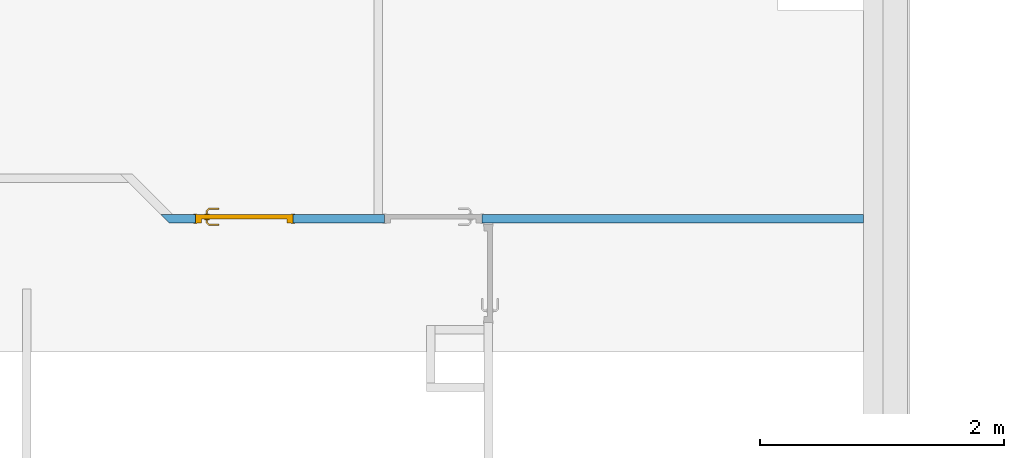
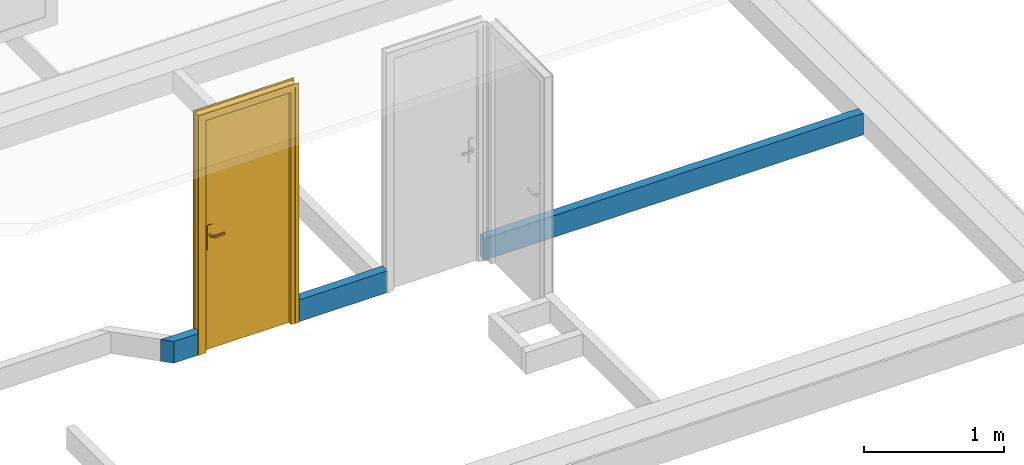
# One storey, part 2 of 5: 1 door, 1 wall, 2 openings.
"""IFC2X3 building model written with IfcOpenShell, lengths in centimetres."""

import ifcopenshell
import ifcopenshell.guid

model = None  # the IFC model being written
_history = None  # IfcOwnerHistory: only IFC2X3 demands one
_inside = {}  # id of a spatial element -> (the spatial element, [elements in it])
_under = {}  # id of a project, library or spatial element -> (it, [spatial elements below it])
_declared = {}  # id of a project -> (the project, [libraries it declares])
_typed = {}  # id of a type object -> (the type object, [elements of that type])
_made_of = {}  # id of a material, layer set ... -> (it, [elements and type objects made of it])


def new_model(schema):
    """Start an empty IFC model of exactly this schema.

    Asked for "IFC4X3", IfcOpenShell would pick the latest addendum, in which some entities
    have other attributes; the version numbers below select the first issue.
    IFC2X3 requires an IfcOwnerHistory on every rooted entity: one is made here for all.
    """
    global model, _history
    if schema == "IFC4X3":
        model = ifcopenshell.file(schema_version=(4, 3, 0, 0))
    else:
        model = ifcopenshell.file(schema=schema)
    _inside.clear()
    _under.clear()
    _declared.clear()
    _typed.clear()
    _made_of.clear()
    _history = None
    if model.schema == "IFC2X3":
        org = make("IfcOrganization", Name="unknown")
        user = make(
            "IfcPersonAndOrganization",
            ThePerson=make("IfcPerson", FamilyName="unknown"),
            TheOrganization=org,
        )
        app = make(
            "IfcApplication",
            ApplicationDeveloper=org,
            Version="unknown",
            ApplicationFullName="unknown",
            ApplicationIdentifier="unknown",
        )
        _history = make(
            "IfcOwnerHistory",
            OwningUser=user,
            OwningApplication=app,
            ChangeAction="ADDED",
            CreationDate=0,
        )
    return model


def make(cls, **values):
    """One entity of the class cls with the attributes given. An attribute that is None is left unset."""
    return model.create_entity(
        cls, **{name: value for name, value in values.items() if value is not None}
    )


def entity(cls, *values):
    """Any entity or typed value of the class cls, its attributes in the order of the schema. None: left unset."""
    e = model.create_entity(cls)
    for i, value in enumerate(values):
        if value is not None:
            e[i] = value
    return e


def rooted(cls, **values):
    """An entity with a GlobalId (a new one), such as an element, a storey or a relation."""
    return make(cls, GlobalId=ifcopenshell.guid.new(), OwnerHistory=_history, **values)


def si_unit(unit_type, name, prefix=None):
    """IfcSIUnit, for example si_unit("LENGTHUNIT", "METRE", prefix="MILLI")."""
    return make("IfcSIUnit", UnitType=unit_type, Prefix=prefix, Name=name)


def converted_unit(unit_type, name, factor, base, dimensions=None, offset=None):
    """IfcConversionBasedUnit, such as the inch: factor (a typed value) times the base unit."""
    return make(
        "IfcConversionBasedUnit"
        if offset is None
        else "IfcConversionBasedUnitWithOffset",
        ConversionOffset=offset,
        Dimensions=None
        if dimensions is None
        else entity("IfcDimensionalExponents", *dimensions),
        UnitType=unit_type,
        Name=name,
        ConversionFactor=make(
            "IfcMeasureWithUnit", ValueComponent=factor, UnitComponent=base
        ),
    )


def derived_unit(unit_type, elements):
    """IfcDerivedUnit: a product of units, each with its exponent."""
    return make(
        "IfcDerivedUnit",
        Elements=[
            make("IfcDerivedUnitElement", Unit=unit, Exponent=power)
            for unit, power in elements
        ],
        UnitType=unit_type,
    )


def assignment(units):
    """IfcUnitAssignment: the units of a project."""
    return None if units is None else make("IfcUnitAssignment", Units=units)


def point(xyz):
    """IfcCartesianPoint."""
    return None if xyz is None else make("IfcCartesianPoint", Coordinates=xyz)


def direction(xyz):
    """IfcDirection."""
    return None if xyz is None else make("IfcDirection", DirectionRatios=xyz)


def frame(location, z_axis=None, x_axis=None):
    """IfcAxis2Placement3D, a coordinate frame: its origin and axes. An axis left out is left unset."""
    return make(
        "IfcAxis2Placement3D",
        Location=point(location),
        Axis=direction(z_axis),
        RefDirection=direction(x_axis),
    )


def frame_2d(location, x_axis=None):
    """IfcAxis2Placement2D, a coordinate frame in the plane: its origin and x axis."""
    return make(
        "IfcAxis2Placement2D", Location=point(location), RefDirection=direction(x_axis)
    )


def origin():
    """The frame at (0, 0, 0) with its axes left unset."""
    return frame((0.0, 0.0, 0.0))


def place(relative_to, where):
    """IfcLocalPlacement: puts the frame where relative to a parent placement (None: the world)."""
    return make(
        "IfcLocalPlacement", PlacementRelTo=relative_to, RelativePlacement=where
    )


def context(
    kind, dimensions, precision=None, world=None, true_north=None, identifier=None
):
    """IfcGeometricRepresentationContext, for example the 3D "Model" context."""
    return make(
        "IfcGeometricRepresentationContext",
        ContextIdentifier=identifier,
        ContextType=kind,
        CoordinateSpaceDimension=dimensions,
        Precision=precision,
        WorldCoordinateSystem=world,
        TrueNorth=true_north,
    )


def subcontext(parent, identifier, kind, view, scale=None):
    """IfcGeometricRepresentationSubContext, for example "Body" below "Model"."""
    return make(
        "IfcGeometricRepresentationSubContext",
        ContextIdentifier=identifier,
        ContextType=kind,
        ParentContext=parent,
        TargetScale=scale,
        TargetView=view,
    )


def project(units=None, contexts=None):
    """IfcProject with its units and contexts."""
    return rooted(
        "IfcProject",
        Name="project",
        RepresentationContexts=contexts,
        UnitsInContext=assignment(units),
    )


def spatial(cls, under=None, at=None, **own):
    """A site, building, storey or space (cls), placed at a placement, below another one or the project."""
    s = rooted(cls, ObjectPlacement=at, **own)
    if under is not None:
        _under.setdefault(under.id(), (under, []))[1].append(s)
    return s


def polyline(points):
    """IfcPolyline through the points."""
    return make("IfcPolyline", Points=[point(p) for p in points])


def profile(cls, at=None, kind="AREA", **sizes):
    """A parametric profile (cls). Its sizes go by their IFC names, for example OverallWidth=200.0."""
    return make(cls, ProfileType=kind, Position=at, **sizes)


def rectangle(**sizes):
    """IfcRectangleProfileDef."""
    return profile("IfcRectangleProfileDef", **sizes)


def outline(outer, holes=None, kind="AREA"):
    """IfcArbitraryClosedProfileDef: a profile drawn as a closed curve; with holes, ...WithVoids."""
    if holes is None:
        return make("IfcArbitraryClosedProfileDef", ProfileType=kind, OuterCurve=outer)
    return make(
        "IfcArbitraryProfileDefWithVoids",
        ProfileType=kind,
        OuterCurve=outer,
        InnerCurves=holes,
    )


def extrude(swept, where, along, depth):
    """IfcExtrudedAreaSolid: the profile swept, set in the frame where, extruded along a direction by depth."""
    return make(
        "IfcExtrudedAreaSolid",
        SweptArea=swept,
        Position=where,
        ExtrudedDirection=direction(along),
        Depth=depth,
    )


def clip(a, b, op="DIFFERENCE"):
    """IfcBooleanClippingResult: the solid a cut by the half space b."""
    return make(
        "IfcBooleanClippingResult", Operator=op, FirstOperand=a, SecondOperand=b
    )


def halfspace(plane, agree):
    """IfcHalfSpaceSolid: all space on one side of the plane z = 0 of the frame plane."""
    return make(
        "IfcHalfSpaceSolid",
        BaseSurface=make("IfcPlane", Position=plane),
        AgreementFlag=agree,
    )


def faces_of(points, faces, orient=None, outer=None):
    """IfcFace entities. A face is a list of loops; a loop is a list of indices into points, from 0.

    orient and outer hold one flag for each loop. By default every Orientation is true, the
    first loop of a face is its IfcFaceOuterBound and the others are IfcFaceBound.
    """
    made = []
    for i, loops in enumerate(faces):
        bounds = []
        for j, loop in enumerate(loops):
            is_outer = j == 0 if outer is None else outer[i][j]
            bounds.append(
                make(
                    "IfcFaceOuterBound" if is_outer else "IfcFaceBound",
                    Bound=make("IfcPolyLoop", Polygon=[points[k] for k in loop]),
                    Orientation=True if orient is None else orient[i][j],
                )
            )
        made.append(make("IfcFace", Bounds=bounds))
    return made


def faceted_brep(points, faces, orient=None, outer=None, voids=None):
    """IfcFacetedBrep: a solid bounded by flat faces; with voids (closed shells), ...WithVoids."""
    shared = [point(p) for p in points]
    hull = make("IfcClosedShell", CfsFaces=faces_of(shared, faces, orient, outer))
    if voids is None:
        return make("IfcFacetedBrep", Outer=hull)
    return make(
        "IfcFacetedBrepWithVoids",
        Outer=hull,
        Voids=[
            make(cls, CfsFaces=faces_of(shared, fs, o, b)) for cls, fs, o, b in voids
        ],
    )


def shape(context_of_items, identifier, shape_type, items):
    """IfcShapeRepresentation: the items that make up one representation, for example the "Body"."""
    return make(
        "IfcShapeRepresentation",
        ContextOfItems=context_of_items,
        RepresentationIdentifier=identifier,
        RepresentationType=shape_type,
        Items=items,
    )


def source(mapping_origin, context_of_items, identifier, shape_type, items):
    """IfcRepresentationMap: a shape defined once, which mapped items show again and again."""
    return make(
        "IfcRepresentationMap",
        MappingOrigin=mapping_origin,
        MappedRepresentation=shape(context_of_items, identifier, shape_type, items),
    )


def transform(
    local_origin,
    x_axis=None,
    y_axis=None,
    z_axis=None,
    scale=None,
    scale2=None,
    scale3=None,
    uniform=True,
):
    """IfcCartesianTransformationOperator3D, or its non-uniform kind. x_axis, y_axis, z_axis: its Axis1, 2, 3."""
    if uniform:
        return make(
            "IfcCartesianTransformationOperator3D",
            Axis1=direction(x_axis),
            Axis2=direction(y_axis),
            LocalOrigin=point(local_origin),
            Scale=scale,
            Axis3=direction(z_axis),
        )
    return make(
        "IfcCartesianTransformationOperator3DnonUniform",
        Axis1=direction(x_axis),
        Axis2=direction(y_axis),
        LocalOrigin=point(local_origin),
        Scale=scale,
        Axis3=direction(z_axis),
        Scale2=scale2,
        Scale3=scale3,
    )


def mapped(mapping_source, mapping_target):
    """IfcMappedItem: shows the shape of a source again, moved by a transform."""
    return make(
        "IfcMappedItem", MappingSource=mapping_source, MappingTarget=mapping_target
    )


def material(Name=None, Category=None):
    """IfcMaterial."""
    return make("IfcMaterial", Name=Name, Category=Category)


def material_list(materials):
    """IfcMaterialList."""
    return make("IfcMaterialList", Materials=materials)


def layer(
    of_material, thickness, ventilated=None, Name=None, Category=None, Priority=None
):
    """IfcMaterialLayer: one layer of a wall or slab, of a material (None: an air gap)."""
    return make(
        "IfcMaterialLayer",
        Material=of_material,
        LayerThickness=thickness,
        IsVentilated=ventilated,
        Name=Name,
        Category=Category,
        Priority=Priority,
    )


def layer_set(layers, Name=None):
    """IfcMaterialLayerSet."""
    return make("IfcMaterialLayerSet", MaterialLayers=layers, LayerSetName=Name)


def layer_usage(for_layer_set, set_direction, sense, offset, extent=None):
    """IfcMaterialLayerSetUsage: how a layer set lies in its element."""
    return make(
        "IfcMaterialLayerSetUsage",
        ForLayerSet=for_layer_set,
        LayerSetDirection=set_direction,
        DirectionSense=sense,
        OffsetFromReferenceLine=offset,
        ReferenceExtent=extent,
    )


def made_of(thing, what):
    """Note that an element or type object is made of a material, layer set ...; save() writes the relation."""
    if what is not None:
        _made_of.setdefault(what.id(), (what, []))[1].append(thing)
    return thing


def type_object(cls, material=None, **own):
    """A type object (cls), such as IfcWallType, which elements share."""
    return made_of(rooted(cls, **own), material)


def type_shapes(of_type, sources):
    """Give a type object the sources (RepresentationMaps) that its elements show as mapped items."""
    of_type.RepresentationMaps = sources


def element(
    cls,
    number,
    at=None,
    inside=None,
    cuts=None,
    type_object=None,
    material=None,
    context=None,
    identifier="Body",
    shape_type=None,
    held_by="IfcProductDefinitionShape",
    body=None,
    shapes=None,
    **own,
):
    """One element of the class cls, such as IfcWall. Its Tag is "e" and its number.

    at: its placement. inside: the storey or other place that contains it. cuts: it is an
    opening in that element (IfcRelVoidsElement). A single representation is given by context,
    identifier, shape_type and body (its items); several are given by shapes. held_by: the class
    of the entity that holds the representations. save() writes the other relations.
    """
    e = rooted(cls, Tag="e%d" % number, ObjectPlacement=at, **own)
    if body is not None:
        shapes = [shape(context, identifier, shape_type, body)]
    if shapes is not None:
        e.Representation = make(held_by, Representations=shapes)
    if inside is not None:
        _inside.setdefault(inside.id(), (inside, []))[1].append(e)
    if cuts is not None:
        rooted(
            "IfcRelVoidsElement", RelatingBuildingElement=cuts, RelatedOpeningElement=e
        )
    if type_object is not None:
        _typed.setdefault(type_object.id(), (type_object, []))[1].append(e)
    return made_of(e, material)


def fill(opening, filler):
    """IfcRelFillsElement: the door or window that sits in an opening."""
    return rooted(
        "IfcRelFillsElement",
        RelatingOpeningElement=opening,
        RelatedBuildingElement=filler,
    )


def aggregate(whole, parts):
    """IfcRelAggregates: a whole, such as a stair, and the parts it consists of."""
    return rooted("IfcRelAggregates", RelatingObject=whole, RelatedObjects=parts)


def save(model, path):
    """Write the relations noted so far, then the file.

    IfcRelAggregates (storeys below a building ...), IfcRelContainedInSpatialStructure (elements
    in a storey), IfcRelDefinesByType, IfcRelAssociatesMaterial and IfcRelDeclares: one each for
    every whole, place, type object, material and project.
    """
    for whole, parts in _under.values():
        aggregate(whole, parts)
    for where, things in _inside.values():
        rooted(
            "IfcRelContainedInSpatialStructure",
            RelatedElements=things,
            RelatingStructure=where,
        )
    for kind, things in _typed.values():
        rooted("IfcRelDefinesByType", RelatedObjects=things, RelatingType=kind)
    for what, things in _made_of.values():
        rooted("IfcRelAssociatesMaterial", RelatedObjects=things, RelatingMaterial=what)
    for by, libraries in _declared.values():
        rooted("IfcRelDeclares", RelatingContext=by, RelatedDefinitions=libraries)
    model.write(path)


model = new_model("IFC2X3")

# Units and contexts
model_context = context("Model", 3, precision=0.001, world=origin(), true_north=direction((6.12303176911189e-17, 1.0)))
body_context = subcontext(model_context, "Body", "Model", "MODEL_VIEW")
ifc_project = project(units=[si_unit("LENGTHUNIT", "METRE", prefix="CENTI"), si_unit("AREAUNIT", "SQUARE_METRE"), si_unit("VOLUMEUNIT", "CUBIC_METRE"), converted_unit("PLANEANGLEUNIT", "DEGREE", entity("IfcRatioMeasure", 0.0174532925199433), si_unit("PLANEANGLEUNIT", "RADIAN"), dimensions=[0, 0, 0, 0, 0, 0, 0]), si_unit("MASSUNIT", "GRAM", prefix="KILO"), derived_unit("MASSDENSITYUNIT", [(si_unit("MASSUNIT", "GRAM", prefix="KILO"), 1), (si_unit("LENGTHUNIT", "METRE"), -3)]), derived_unit("MOMENTOFINERTIAUNIT", [(si_unit("LENGTHUNIT", "METRE"), 4)]), si_unit("TIMEUNIT", "SECOND"), si_unit("FREQUENCYUNIT", "HERTZ"), si_unit("THERMODYNAMICTEMPERATUREUNIT", "DEGREE_CELSIUS"), derived_unit("THERMALTRANSMITTANCEUNIT", [(si_unit("MASSUNIT", "GRAM", prefix="KILO"), 1), (si_unit("THERMODYNAMICTEMPERATUREUNIT", "KELVIN"), -1), (si_unit("TIMEUNIT", "SECOND"), -3)]), derived_unit("VOLUMETRICFLOWRATEUNIT", [(si_unit("LENGTHUNIT", "METRE"), 3), (si_unit("TIMEUNIT", "SECOND"), -1)]), si_unit("ELECTRICCURRENTUNIT", "AMPERE"), si_unit("ELECTRICVOLTAGEUNIT", "VOLT"), si_unit("POWERUNIT", "WATT"), si_unit("FORCEUNIT", "NEWTON", prefix="KILO"), si_unit("ILLUMINANCEUNIT", "LUX"), si_unit("LUMINOUSFLUXUNIT", "LUMEN"), si_unit("LUMINOUSINTENSITYUNIT", "CANDELA"), derived_unit("USERDEFINED", [(si_unit("MASSUNIT", "GRAM", prefix="KILO"), -1), (si_unit("LENGTHUNIT", "METRE"), -2), (si_unit("TIMEUNIT", "SECOND"), 3), (si_unit("LUMINOUSFLUXUNIT", "LUMEN"), 1)]), derived_unit("LINEARVELOCITYUNIT", [(si_unit("LENGTHUNIT", "METRE"), 1), (si_unit("TIMEUNIT", "SECOND"), -1)]), si_unit("PRESSUREUNIT", "PASCAL"), derived_unit("USERDEFINED", [(si_unit("LENGTHUNIT", "METRE"), -2), (si_unit("MASSUNIT", "GRAM", prefix="KILO"), 1), (si_unit("TIMEUNIT", "SECOND"), -2)]), derived_unit("LINEARFORCEUNIT", [(si_unit("MASSUNIT", "GRAM", prefix="KILO"), 1), (si_unit("LENGTHUNIT", "METRE"), 1), (si_unit("TIMEUNIT", "SECOND"), -2), (si_unit("LENGTHUNIT", "METRE"), -1)]), derived_unit("PLANARFORCEUNIT", [(si_unit("MASSUNIT", "GRAM", prefix="KILO"), 1), (si_unit("LENGTHUNIT", "METRE"), 1), (si_unit("TIMEUNIT", "SECOND"), -2), (si_unit("LENGTHUNIT", "METRE"), -2)])], contexts=[model_context])

# Site, building, storey
site_placement = place(None, origin())
site = spatial("IfcSite", under=ifc_project, at=site_placement, Name="Surface", CompositionType="ELEMENT")
building_placement = place(site_placement, origin())
building = spatial("IfcBuilding", under=site, at=building_placement, CompositionType="ELEMENT")
storey_placement = place(building_placement, frame((0.0, 0.0, 263.0)))
storey = spatial("IfcBuildingStorey", under=building, at=storey_placement, Name="2.63_Etage", CompositionType="ELEMENT", Elevation=263.0)

# Wall, openings, door
ifc_material_1 = material(Name="Mur par défaut")
ifc_layer = layer(ifc_material_1, 7.0)
ifc_layer_set = layer_set([ifc_layer], Name="Mur de base:Cloison 7cm")
ifc_layer_usage = layer_usage(ifc_layer_set, "AXIS2", "POSITIVE", -3.5)
wall_type = type_object("IfcWallType", Name="Mur de base:Cloison 7cm", PredefinedType="STANDARD", material=ifc_layer_set)
wall_placement = place(storey_placement, frame((-918.177260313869, 397.49231712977, 0.0), z_axis=(0.0, 0.0, 1.0), x_axis=(-1.0, 0.0, 0.0)))
wall = element("IfcWallStandardCase", 1, at=wall_placement, inside=storey, type_object=wall_type, material=ifc_layer_usage, Name="Mur de base:Cloison 7cm", ObjectType="Mur de base:Cloison 7cm", context=body_context, shape_type="Clipping", body=[
    clip(extrude(outline(polyline([(0.0, -3.49999999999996), (394.0, -3.49999999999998), (401.0, -3.49999999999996), (566.100505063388, -3.49999999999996), (576.0, -3.49999999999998), (569.0, 3.50000000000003), (0.0, 3.50000000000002), (0.0, -3.49999999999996)])), origin(), (0.0, 0.0, 1.0), 19.0), halfspace(origin(), True)),
])
opening_1_placement = place(wall_placement, frame((547.5, 3.49999999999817, 0.0)))
opening_1 = element("IfcOpeningElement", 2, at=opening_1_placement, cuts=wall, Name="Int. Simple:PP (0.73m x 2.04m):1", ObjectType="Opening", context=body_context, shape_type="SweptSolid", body=[
    extrude(rectangle(XDim=207.5, YDim=79.9999999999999, at=frame_2d((103.75, 40.0), x_axis=(1.0, 0.0))), frame((0.0, 0.0, 0.0), z_axis=(0.0, -1.0, 0.0), x_axis=(0.0, 0.0, 1.0)), (0.0, 0.0, 1.0), 7.0),
])
opening_2_placement = place(wall_placement, frame((392.500000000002, 3.49999999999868, 0.0)))
element("IfcOpeningElement", 3, at=opening_2_placement, cuts=wall, Name="Int. Simple:PP (0.73m x 2.04m):1", ObjectType="Opening", context=body_context, shape_type="SweptSolid", body=[
    extrude(rectangle(XDim=207.5, YDim=79.9999999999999, at=frame_2d((103.75, 40.0), x_axis=(1.0, 0.0))), frame((0.0, 0.0, 0.0), z_axis=(0.0, -1.0, 0.0), x_axis=(0.0, 0.0, 1.0)), (0.0, 0.0, 1.0), 7.0),
])
ifc_material_2 = material(Name="Finition Peinture - Blanc satiné")
ifc_material_3 = material(Name="Bois - Panneau de porte")
ifc_material_4 = material(Name="Bois - Cadre de porte")
ifc_material_list_1 = material_list([ifc_material_2, ifc_material_3, ifc_material_4])
ifc_material_list_2 = material_list([ifc_material_2, ifc_material_4, ifc_material_3])
door_style = type_object("IfcDoorStyle", Name="Int. Simple:PP (0.73m x 2.04m)", ConstructionType="NOTDEFINED", OperationType="NOTDEFINED", ParameterTakesPrecedence=False, Sizeable=False, material=ifc_material_list_2)
shared_shape = source(origin(), body_context, "Body", "Brep", [
    faceted_brep([(79.5000000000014, -0.500000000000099, 87.0), (79.5000000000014, -0.500000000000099, 108.0), (78.5352761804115, -0.500000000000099, 108.399601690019), (77.5000000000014, -0.500000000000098, 108.535898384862), (76.4647238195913, -0.500000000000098, 108.399601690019), (75.5000000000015, -0.500000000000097, 108.0), (75.5000000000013, -0.500000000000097, 87.0), (76.4647238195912, -0.500000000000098, 86.6003983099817), (77.5000000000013, -0.500000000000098, 86.464101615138), (78.5352761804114, -0.500000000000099, 86.6003983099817), (79.5000000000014, 0.0, 108.0), (79.5000000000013, 0.0, 87.0), (78.5352761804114, 0.0, 86.6003983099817), (77.5000000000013, 0.0, 86.464101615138), (76.4647238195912, 0.0, 86.6003983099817), (75.5000000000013, 0.0, 87.0), (75.5000000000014, 0.0, 108.0), (76.4647238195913, 0.0, 108.399601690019), (77.5000000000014, 0.0, 108.535898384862), (78.5352761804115, 0.0, 108.399601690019)], [[[0, 1, 2, 3, 4, 5, 6, 7, 8, 9]], [[10, 11, 12, 13, 14, 15, 16, 17, 18, 19]], [[9, 12, 11, 0]], [[8, 13, 12, 9]], [[7, 14, 13, 8]], [[7, 6, 15, 14]], [[15, 6, 5, 16]], [[4, 17, 16, 5]], [[3, 18, 17, 4]], [[2, 19, 18, 3]], [[2, 1, 10, 19]], [[11, 10, 1, 0]]]),
    faceted_brep([(79.5000000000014, 4.0, 87.0), (79.5000000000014, 4.0, 108.0), (78.5352761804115, 4.0, 108.399601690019), (77.5000000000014, 4.0, 108.535898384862), (76.4647238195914, 4.0, 108.399601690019), (75.5000000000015, 4.0, 108.0), (75.5000000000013, 4.0, 87.0), (76.4647238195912, 4.0, 86.6003983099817), (77.5000000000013, 4.0, 86.464101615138), (78.5352761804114, 4.0, 86.6003983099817), (77.5000000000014, 4.4999999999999, 108.535898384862), (78.5352761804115, 4.4999999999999, 108.399601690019), (79.5000000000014, 4.4999999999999, 108.0), (79.5000000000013, 4.4999999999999, 87.0), (78.5352761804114, 4.4999999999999, 86.6003983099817), (77.5000000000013, 4.4999999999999, 86.464101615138), (76.4647238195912, 4.4999999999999, 86.6003983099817), (75.5000000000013, 4.4999999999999, 87.0), (75.5000000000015, 4.4999999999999, 108.0), (76.4647238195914, 4.4999999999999, 108.399601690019)], [[[0, 1, 2, 3, 4, 5, 6, 7, 8, 9]], [[10, 11, 12, 13, 14, 15, 16, 17, 18, 19]], [[4, 19, 18, 5]], [[3, 10, 19, 4]], [[2, 11, 10, 3]], [[2, 1, 12, 11]], [[13, 12, 1, 0]], [[9, 14, 13, 0]], [[8, 15, 14, 9]], [[7, 16, 15, 8]], [[7, 6, 17, 16]], [[17, 6, 5, 18]]]),
    faceted_brep([(77.2974701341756, -0.500000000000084, 100.778044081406), (77.7025298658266, -0.500000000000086, 100.778044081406), (78.1000000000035, -0.500000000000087, 100.699999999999), (78.1000000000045, -0.500000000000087, 99.2999999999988), (77.7025298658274, -0.500000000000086, 99.221955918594), (77.2974701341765, -0.500000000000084, 99.2219559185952), (76.8999999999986, -0.500000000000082, 99.3000000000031), (76.8999999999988, -0.500000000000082, 100.7), (77.7025298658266, -3.10045754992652, 100.778044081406), (78.1000000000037, -3.26509507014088, 100.7), (77.2974701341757, -2.93267631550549, 100.778044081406), (75.9298602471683, -4.30028620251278, 100.778044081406), (76.0976414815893, -4.7053459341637, 100.778044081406), (76.8999999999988, -2.76803879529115, 100.7), (76.8999999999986, -2.76803879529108, 99.3000000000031), (77.2974701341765, -2.93267631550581, 99.2219559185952), (77.7025298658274, -3.10045754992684, 99.221955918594), (76.0976414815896, -4.70534593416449, 99.221955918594), (75.9298602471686, -4.30028620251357, 99.2219559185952), (78.1000000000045, -3.26509507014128, 99.2999999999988), (76.2622790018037, -5.1028160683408, 100.7), (75.7652227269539, -3.90281606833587, 100.7), (75.7652227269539, -3.90281606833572, 99.3000000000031), (76.262279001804, -5.10281606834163, 99.2999999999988), (67.4981359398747, -5.10281606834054, 100.7), (67.4981359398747, -4.70534593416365, 100.778044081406), (67.4981359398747, -4.30028620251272, 100.778044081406), (67.4981359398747, -3.90281606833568, 100.699999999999), (67.4981359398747, -3.90281606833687, 99.3000000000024), (67.4981359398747, -4.30028620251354, 99.2219559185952), (67.4981359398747, -4.70534593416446, 99.221955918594), (67.4981359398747, -5.10281606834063, 99.2999999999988), (71.713998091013, -4.50281606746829, 100.78786867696), (72.2692302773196, -5.10281606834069, 100.7), (71.6316793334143, -3.90281606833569, 100.7), (71.6316793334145, -3.90281606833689, 99.3000000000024), (71.7139981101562, -4.50281607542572, 99.2121313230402), (72.2692310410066, -5.10281606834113, 99.2999999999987)], [[[0, 1, 2, 3, 4, 5, 6, 7]], [[2, 1, 8, 9]], [[1, 0, 10, 11, 12, 8]], [[0, 7, 13, 10]], [[14, 13, 7, 6]], [[5, 15, 14, 6]], [[5, 4, 16, 17, 18, 15]], [[3, 19, 16, 4]], [[9, 19, 3, 2]], [[9, 8, 12, 20]], [[10, 13, 21, 11]], [[22, 21, 13, 14]], [[14, 15, 18, 22]], [[16, 19, 23, 17]], [[20, 23, 19, 9]], [[24, 25, 26, 27, 28, 29, 30, 31]], [[32, 25, 33]], [[33, 25, 24]], [[33, 20, 12]], [[11, 34, 32]], [[34, 11, 21]], [[27, 26, 34]], [[32, 26, 25]], [[32, 34, 26]], [[32, 33, 12]], [[11, 32, 12]], [[21, 22, 35, 28, 27, 34]], [[36, 29, 35]], [[30, 36, 37]], [[18, 35, 22]], [[29, 28, 35]], [[30, 37, 31]], [[37, 17, 23]], [[36, 17, 37]], [[36, 18, 17]], [[36, 35, 18]], [[29, 36, 30]], [[23, 20, 33, 24, 31, 37]]]),
    faceted_brep([(77.2974701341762, 4.49999999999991, 99.2219559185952), (77.7025298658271, 4.49999999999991, 99.221955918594), (78.1000000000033, 4.49999999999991, 99.2999999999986), (78.1000000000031, 4.49999999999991, 100.7), (77.7025298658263, 4.49999999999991, 100.778044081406), (77.2974701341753, 4.49999999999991, 100.778044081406), (76.8999999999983, 4.49999999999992, 100.7), (76.8999999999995, 4.49999999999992, 99.3000000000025), (76.8999999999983, 6.74852045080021, 100.7), (76.8999999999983, 6.74852045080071, 99.3000000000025), (77.2974701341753, 6.91315797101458, 100.778044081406), (77.7025298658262, 7.0809392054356, 100.778044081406), (76.0838906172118, 8.69957845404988, 100.778044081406), (75.9161093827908, 8.29451872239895, 100.778044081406), (78.1000000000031, 7.24557672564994, 100.7), (78.1000000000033, 7.24557672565, 99.2999999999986), (77.7025298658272, 7.08093920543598, 99.221955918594), (77.2974701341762, 6.91315797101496, 99.2219559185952), (75.9161093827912, 8.29451872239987, 99.2219559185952), (76.0838906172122, 8.69957845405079, 99.221955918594), (75.7514718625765, 7.89704858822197, 100.7), (75.7514718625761, 7.89704858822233, 99.3000000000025), (76.2485281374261, 9.09704858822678, 100.7), (76.2485281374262, 9.09704858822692, 99.2999999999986), (67.4954216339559, 8.29451872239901, 100.778044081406), (67.4954216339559, 8.69957845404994, 100.778044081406), (67.4954216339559, 9.09704858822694, 100.7), (67.4954216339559, 9.09704858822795, 99.2999999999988), (67.4954216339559, 8.69957845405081, 99.221955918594), (67.4954216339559, 8.29451872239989, 99.2219559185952), (67.4954216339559, 7.897048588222, 99.3000000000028), (67.4954216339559, 7.89704858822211, 100.7), (71.6234467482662, 7.89704858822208, 100.7), (71.6234479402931, 7.89704858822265, 99.3000000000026), (71.7057655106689, 8.49704858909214, 100.78786867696), (72.2554794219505, 9.09704858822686, 100.7), (72.2554795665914, 9.09704858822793, 99.2999999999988), (71.7057654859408, 8.49704858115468, 99.2121313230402)], [[[0, 1, 2, 3, 4, 5, 6, 7]], [[8, 9, 7, 6]], [[5, 10, 8, 6]], [[5, 4, 11, 12, 13, 10]], [[3, 14, 11, 4]], [[14, 3, 2, 15]], [[2, 1, 16, 15]], [[1, 0, 17, 18, 19, 16]], [[0, 7, 9, 17]], [[20, 21, 9, 8]], [[8, 10, 13, 20]], [[14, 22, 12, 11]], [[23, 22, 14, 15]], [[15, 16, 19, 23]], [[17, 9, 21, 18]], [[24, 25, 26, 27, 28, 29, 30, 31]], [[21, 20, 32, 31, 30, 33]], [[34, 24, 32]], [[25, 34, 35]], [[13, 32, 20]], [[24, 31, 32]], [[25, 35, 26]], [[35, 12, 22]], [[34, 12, 35]], [[34, 13, 12]], [[34, 32, 13]], [[24, 34, 25]], [[22, 23, 36, 27, 26, 35]], [[37, 28, 36]], [[36, 28, 27]], [[36, 23, 19]], [[18, 33, 37]], [[33, 18, 21]], [[30, 29, 33]], [[37, 29, 28]], [[37, 33, 29]], [[37, 36, 19]], [[18, 37, 19]]]),
    faceted_brep([(83.5000000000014, 4.0, 204.0), (83.5000000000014, 4.0, 0.0), (10.5000000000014, 4.0, 0.0), (10.5000000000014, 4.0, 204.0), (83.5000000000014, 0.0, 204.0), (10.5000000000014, 0.0, 204.0), (10.5000000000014, 0.0, 0.0), (83.5000000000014, 0.0, 0.0)], [[[0, 1, 2, 3]], [[4, 5, 6, 7]], [[3, 5, 4, 0]], [[2, 6, 5, 3]], [[1, 7, 6, 2]], [[0, 4, 7, 1]]]),
    faceted_brep([(87.0, 0.0, 0.0), (83.5000000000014, 0.0, 0.0), (83.5000000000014, 4.0, 0.0), (82.0, 4.0, 0.0), (82.0, 7.0, 0.0), (87.0, 7.0, 0.0), (87.0, 7.0, 207.500000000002), (87.0, 0.0, 207.500000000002), (82.0, 7.0, 202.5), (12.0, 7.0, 202.5), (12.0, 7.0, 0.0), (7.0, 7.0, 0.0), (7.0, 7.0, 207.500000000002), (82.0, 4.0, 202.5), (83.5000000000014, 4.0, 204.0), (10.5000000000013, 4.0, 204.0), (10.5000000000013, 4.0, 0.0), (12.0, 4.0, 0.0), (12.0, 4.0, 202.5), (83.5000000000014, 0.0, 204.0), (7.0, 0.0, 207.500000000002), (7.0, 0.0, 0.0), (10.5000000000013, 0.0, 0.0), (10.5000000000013, 0.0, 204.0)], [[[0, 1, 2, 3, 4, 5]], [[5, 6, 7, 0]], [[4, 8, 9, 10, 11, 12, 6, 5]], [[3, 13, 8, 4]], [[2, 14, 15, 16, 17, 18, 13, 3]], [[1, 19, 14, 2]], [[0, 7, 20, 21, 22, 23, 19, 1]], [[12, 11, 21, 20]], [[21, 11, 10, 17, 16, 22]], [[18, 17, 10, 9]], [[23, 22, 16, 15]], [[6, 12, 20, 7]], [[13, 18, 9, 8]], [[19, 23, 15, 14]]]),
    faceted_brep([(85.5000000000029, 7.0, 0.0), (85.5000000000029, 7.49999999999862, 0.0), (88.5000000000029, 7.49999999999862, 0.0), (88.5000000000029, 7.0, 0.0), (88.5000000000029, 7.0, 209.0), (5.50000000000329, 7.0, 209.0), (5.5000000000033, 7.0, 0.0), (8.50000000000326, 7.0, 0.0), (8.50000000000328, 7.0, 206.0), (85.5000000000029, 7.0, 206.0), (88.5000000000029, 7.49999999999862, 209.0), (85.5000000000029, 7.49999999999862, 206.0), (8.50000000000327, 7.49999999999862, 206.0), (8.50000000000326, 7.49999999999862, 0.0), (5.5000000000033, 7.49999999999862, 0.0), (5.50000000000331, 7.49999999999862, 209.0)], [[[0, 1, 2, 3]], [[3, 4, 5, 6, 7, 8, 9, 0]], [[2, 10, 4, 3]], [[1, 11, 12, 13, 14, 15, 10, 2]], [[0, 9, 11, 1]], [[7, 6, 14, 13]], [[8, 7, 13, 12]], [[15, 14, 6, 5]], [[10, 15, 5, 4]], [[9, 8, 12, 11]]]),
    faceted_brep([(88.5000000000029, -0.5, 0.0), (88.5000000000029, -0.5, 209.0), (5.50000000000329, -0.5, 209.0), (5.5000000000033, -0.5, 0.0), (8.50000000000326, -0.5, 0.0), (8.50000000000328, -0.5, 206.0), (85.5000000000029, -0.5, 206.0), (85.5000000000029, -0.5, 0.0), (88.5000000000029, 0.0, 0.0), (88.5000000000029, 0.0, 209.0), (85.5000000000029, 0.0, 0.0), (85.5000000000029, 0.0, 206.0), (8.50000000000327, 0.0, 206.0), (8.50000000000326, 0.0, 0.0), (5.5000000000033, 0.0, 0.0), (5.50000000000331, 0.0, 209.0)], [[[0, 1, 2, 3, 4, 5, 6, 7]], [[8, 9, 1, 0]], [[10, 11, 12, 13, 14, 15, 9, 8]], [[7, 6, 11, 10]], [[5, 4, 13, 12]], [[15, 14, 3, 2]], [[9, 15, 2, 1]], [[6, 5, 12, 11]], [[4, 3, 14, 13]], [[7, 10, 8, 0]]]),
])
type_shapes(door_style, [shared_shape])
door_placement = place(opening_1_placement, frame((-87.0, -7.0, 0.0)))
door = element("IfcDoor", 4, at=door_placement, inside=storey, type_object=door_style, material=ifc_material_list_1, Name="Int. Simple:PP (0.73m x 2.04m)", ObjectType="Int. Simple:PP (0.73m x 2.04m)", OverallHeight=207.5, OverallWidth=80.0, context=body_context, shape_type="MappedRepresentation", body=[
    mapped(shared_shape, transform((0.0, 0.0, 0.0), scale=1.0)),
])
fill(opening_1, door)

save(model, "model.ifc")
